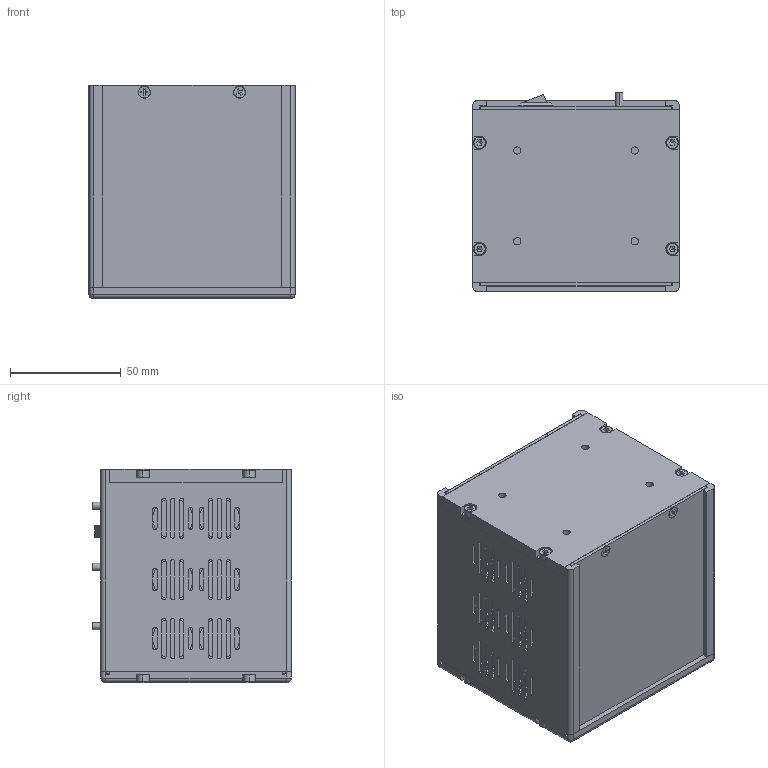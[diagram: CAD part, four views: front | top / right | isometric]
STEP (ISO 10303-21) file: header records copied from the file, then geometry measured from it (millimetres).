
FILE_DESCRIPTION (( 'STEP AP203' ), '1' );
FILE_NAME ('E53.A3K-H.STEP', '2025-07-14T03:19:54', ( 'China' ), ( 'Home' ), 'SwSTEP 2.0', 'SolidWorks 2016', '' );
FILE_SCHEMA (( 'CONFIG_CONTROL_DESIGN' ));
Length unit declared in the file: millimetre
Products named in the file (1): E53.A3K-H
Bounding box: 92.9 x 89.57 x 96 mm (x, y, z)
Surface area: 130753.6 mm2 (no closed solid volume)
Topology: 0 solids, 71 shells, 885 faces, 3523 edges, 2659 vertices
Faces by surface type: plane 448, cylinder 366, cone 30, torus 28, sphere 8, bspline 5
Entity records: 38423 total; most frequent: CARTESIAN_POINT 7984, DIRECTION 6773, ORIENTED_EDGE 5250, EDGE_CURVE 3489, VERTEX_POINT 2651, AXIS2_PLACEMENT_3D 2473, LINE 1827, VECTOR 1827
